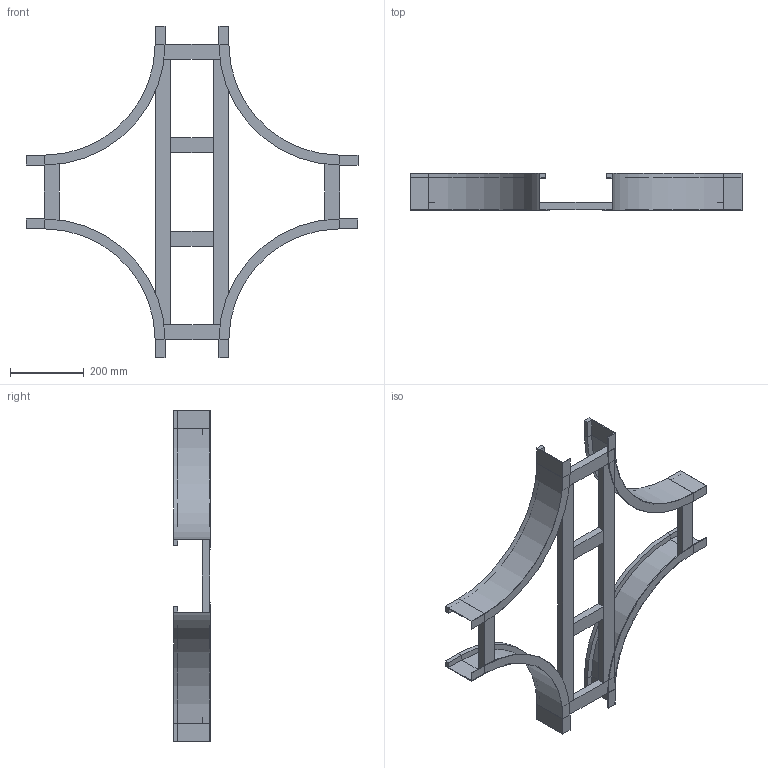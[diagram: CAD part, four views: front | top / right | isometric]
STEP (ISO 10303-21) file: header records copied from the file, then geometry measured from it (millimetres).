
FILE_DESCRIPTION (( 'STEP AP214' ), '1' );
FILE_NAME ('B2_17B3D200.step', '2025-02-21T15:55:29', ( '' ), ( '' ), 'SwSTEP 2.0', 'SolidWorks 2023', '' );
FILE_SCHEMA (( 'AUTOMOTIVE_DESIGN' ));
Length unit declared in the file: millimetre
Products named in the file (5): B2_17B3D200; TRAVERSINO_INTERMEDIO_R300+200; TRAVERSINO_200; B2_TRAVERSINO_LONG._R300+200; B2_LONGH.INTERNO 90°_H100_R300
Assembly tree (12 placements, depth 2):
  B2_17B3D200
    B2_LONGH.INTERNO 90°_H100_R300  x4
    TRAVERSINO_200  x4
    B2_TRAVERSINO_LONG._R300+200  x2
    TRAVERSINO_INTERMEDIO_R300+200  x2
Bounding box: 900 x 100 x 900 mm (x, y, z)
Volume: 3013946 mm3; surface area: 976053.5 mm2
Topology: 12 solids, 12 shells, 152 faces, 320 edges, 192 vertices
Faces by surface type: plane 136, cylinder 16
Entity records: 1354 total; most frequent: DIRECTION 218, CARTESIAN_POINT 207, ORIENTED_EDGE 184, EDGE_CURVE 92, LINE 84, VECTOR 84, AXIS2_PLACEMENT_3D 67, VERTEX_POINT 56
